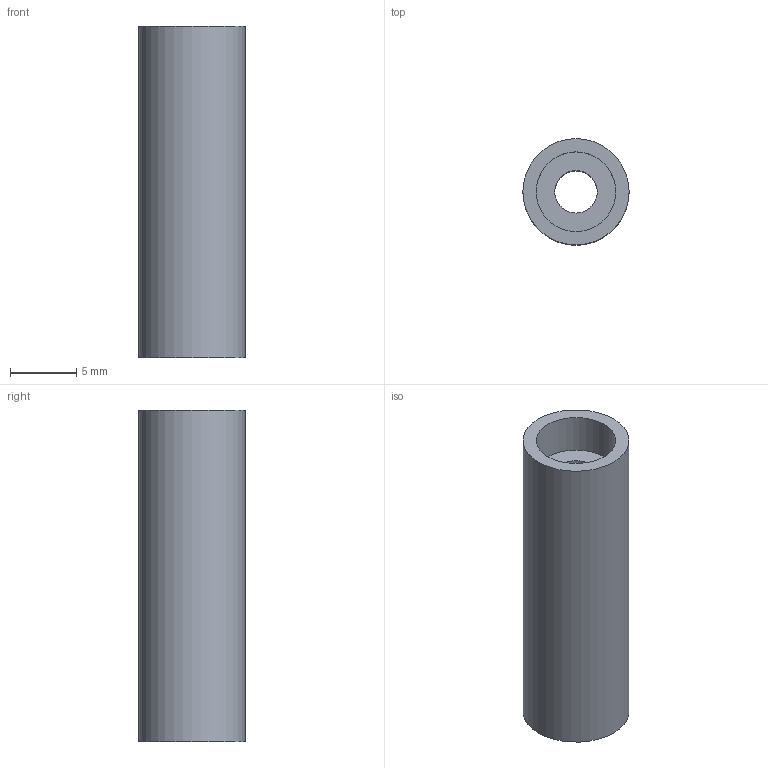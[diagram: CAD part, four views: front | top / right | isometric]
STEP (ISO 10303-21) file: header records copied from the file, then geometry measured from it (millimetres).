
FILE_DESCRIPTION(/* description */ (''),/* implementation_level */ '2;1');
FILE_NAME(/* name */ '6-15-2 Joy stick.step',/* time_stamp */ '2025-05-10T22:37:36+02:00',/* author */ (''),/* organization */ (''),/* preprocessor_version */ 'ST-DEVELOPER v20.1',/* originating_system */ 'Autodesk Translation Framework v14.4.0.0',/* authorisation */ '');
FILE_SCHEMA (('AUTOMOTIVE_DESIGN { 1 0 10303 214 3 1 1 }'));
Length unit declared in the file: millimetre
Products named in the file (1): 6-15-2 Joy stick
Bounding box: 8 x 8 x 25 mm (x, y, z)
Volume: 994.9 mm3; surface area: 990.5 mm2
Topology: 1 solids, 1 shells, 6 faces, 9 edges, 6 vertices
Faces by surface type: cylinder 3, plane 3
Full cylindrical faces by diameter (mm): 3.2 x1, 6 x1, 8 x1
Entity records: 183 total; most frequent: DIRECTION 29, CARTESIAN_POINT 22, ORIENTED_EDGE 18, AXIS2_PLACEMENT_3D 13, EDGE_LOOP 9, EDGE_CURVE 9, FACE_OUTER_BOUND 6, CIRCLE 6
